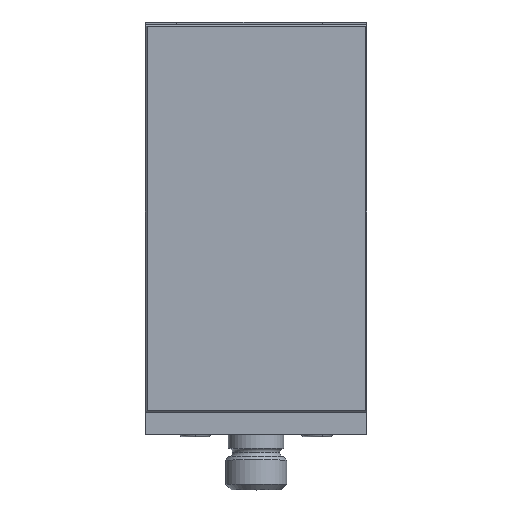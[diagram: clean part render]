
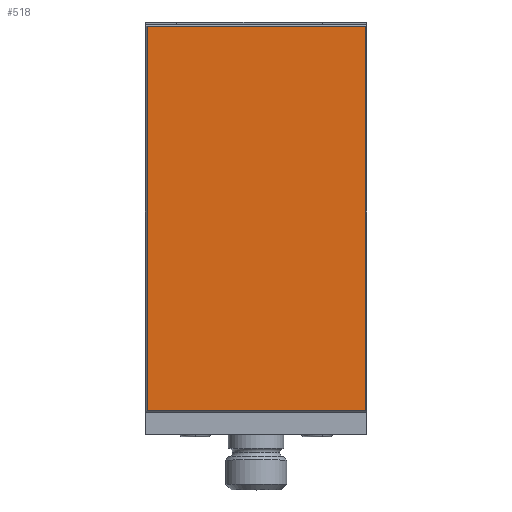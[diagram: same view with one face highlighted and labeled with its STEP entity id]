
A CAD part, top view. The second image highlights one B-rep face of the part: STEP entity #518.
In plain terms, the highlighted planar face has unit normal (0, 0, 1).
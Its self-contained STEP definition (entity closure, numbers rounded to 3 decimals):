
#518=ADVANCED_FACE('',(#1059),#1060,.F.);
#1059=FACE_OUTER_BOUND('',#1640,.T.);
#1060=PLANE('',#1641);
#1640=EDGE_LOOP('',(#2888,#2889,#2890,#2891));
#1641=AXIS2_PLACEMENT_3D('',#2892,#2893,#2894);
#2888=ORIENTED_EDGE('',*,*,#3649,.T.);
#2889=ORIENTED_EDGE('',*,*,#3642,.T.);
#2890=ORIENTED_EDGE('',*,*,#3612,.T.);
#2891=ORIENTED_EDGE('',*,*,#3647,.T.);
#2892=CARTESIAN_POINT('',(-0.038,-78.632,8.3));
#2893=DIRECTION('',(0.,0.,-1.0));
#2894=DIRECTION('',(-1.0,0.0,0.));
#3612=EDGE_CURVE('',#4365,#4363,#4366,.T.);
#3642=EDGE_CURVE('',#4399,#4365,#4401,.T.);
#3647=EDGE_CURVE('',#4363,#4405,#4407,.T.);
#3649=EDGE_CURVE('',#4405,#4399,#4409,.T.);
#4363=VERTEX_POINT('',#5507);
#4365=VERTEX_POINT('',#5510);
#4366=LINE('',#5511,#5512);
#4399=VERTEX_POINT('',#5620);
#4401=LINE('',#5623,#5624);
#4405=VERTEX_POINT('',#5628);
#4407=LINE('',#5631,#5632);
#4409=LINE('',#5634,#5635);
#5507=CARTESIAN_POINT('',(-39.738,-8.932,8.3));
#5510=CARTESIAN_POINT('',(-0.338,-8.932,8.3));
#5511=CARTESIAN_POINT('',(-0.038,-8.932,8.3));
#5512=VECTOR('',#6283,1000.0);
#5620=CARTESIAN_POINT('',(-0.338,-78.332,8.3));
#5623=CARTESIAN_POINT('',(-0.338,-78.632,8.3));
#5624=VECTOR('',#6306,1000.0);
#5628=CARTESIAN_POINT('',(-39.738,-78.332,8.3));
#5631=CARTESIAN_POINT('',(-39.738,-78.632,8.3));
#5632=VECTOR('',#6308,1000.0);
#5634=CARTESIAN_POINT('',(-0.038,-78.332,8.3));
#5635=VECTOR('',#6309,1000.0);
#6283=DIRECTION('',(-1.0,0.,0.));
#6306=DIRECTION('',(0.0,1.0,0.));
#6308=DIRECTION('',(0.0,-1.0,0.));
#6309=DIRECTION('',(1.0,0.,0.));
